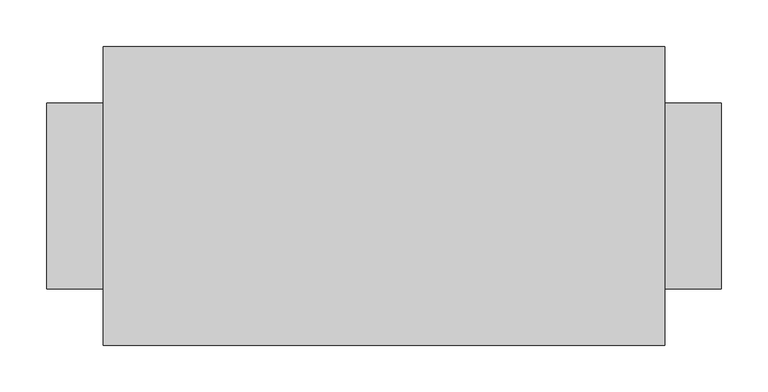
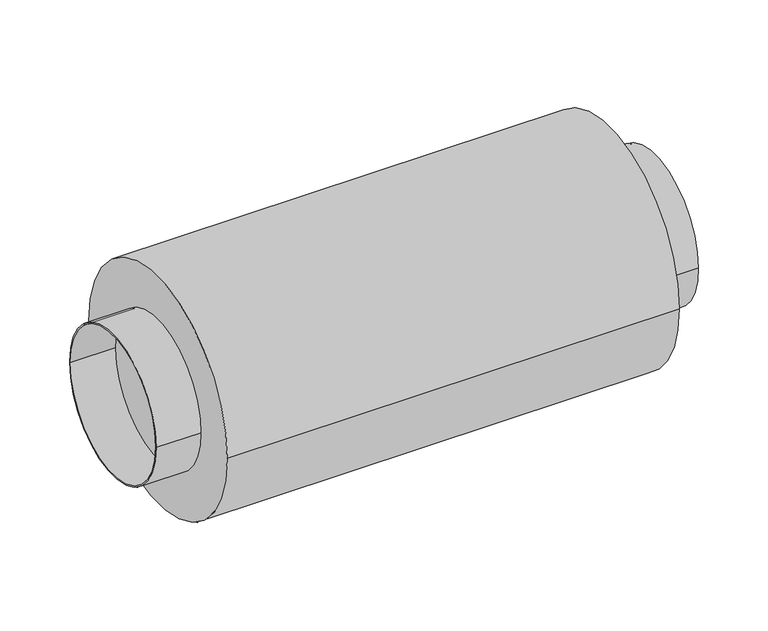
"""IFC4 building model written with IfcOpenShell, lengths in millimetres: damper geometry, СВ_Шумоглушитель_КанальныйКруглый_DN100-315_SHK : SHK-200/600."""

from ifc_helpers import new_model, si_unit, point, frame, origin, origin_2d, place, context, project, spatial, circle_curve, trimmed, segment, composite_curve, outline, extrude, source, transform, mapped, element, save


def damper_83553f87(model_context):
    return source(origin(), model_context, "Body", "SweptSolid", [
        extrude(outline(composite_curve([segment(trimmed(circle_curve(origin_2d(), 159.5), [point((-159.5, 0.0))], [point((159.5, 0.0))], False, "CARTESIAN"), True, "CONTINUOUS"), segment(trimmed(circle_curve(origin_2d(), 159.5), [point((159.5, 0.0))], [point((-159.5, 0.0))], False, "CARTESIAN"), True, "CONTINUOUS")], self_intersect=False)), frame((-300.0, 0.0, 0.0), z_axis=(1.0, 0.0, 0.0), x_axis=(0.0, 1.0, 0.0)), (0.0, 0.0, 1.0), 600.0),
        extrude(outline(composite_curve([segment(trimmed(circle_curve(origin_2d(), 99.5), [point((-99.5, 0.0))], [point((99.5, 0.0))], False, "CARTESIAN"), True, "CONTINUOUS"), segment(trimmed(circle_curve(origin_2d(), 99.5), [point((99.5, 0.0))], [point((-99.5, 0.0))], False, "CARTESIAN"), True, "CONTINUOUS")], self_intersect=False), holes=[composite_curve([segment(trimmed(circle_curve(origin_2d(), 97.5), [point((-97.5, 0.0))], [point((97.5, 0.0))], True, "CARTESIAN"), True, "CONTINUOUS"), segment(trimmed(circle_curve(origin_2d(), 97.5), [point((97.5, 0.0))], [point((-97.5, 0.0))], True, "CARTESIAN"), True, "CONTINUOUS")], self_intersect=False)]), frame((-360.0, 0.0, 0.0), z_axis=(1.0, 0.0, 0.0), x_axis=(0.0, 1.0, 0.0)), (0.0, 0.0, 1.0), 60.0),
        extrude(outline(composite_curve([segment(trimmed(circle_curve(origin_2d(), 99.5), [point((-99.5, 0.0))], [point((99.5, 0.0))], False, "CARTESIAN"), True, "CONTINUOUS"), segment(trimmed(circle_curve(origin_2d(), 99.5), [point((99.5, 0.0))], [point((-99.5, 0.0))], False, "CARTESIAN"), True, "CONTINUOUS")], self_intersect=False), holes=[composite_curve([segment(trimmed(circle_curve(origin_2d(), 97.5), [point((-97.5, 0.0))], [point((97.5, 0.0))], True, "CARTESIAN"), True, "CONTINUOUS"), segment(trimmed(circle_curve(origin_2d(), 97.5), [point((97.5, 0.0))], [point((-97.5, 0.0))], True, "CARTESIAN"), True, "CONTINUOUS")], self_intersect=False)]), frame((300.0, 0.0, 0.0), z_axis=(1.0, 0.0, 0.0), x_axis=(0.0, 1.0, 0.0)), (0.0, 0.0, 1.0), 60.0),
    ])


if __name__ == "__main__":
    model = new_model("IFC4")
    model_context = context("Model", 3, world=origin())
    ifc_project = project(units=[si_unit("LENGTHUNIT", "METRE", prefix="MILLI")], contexts=[model_context])
    site = spatial("IfcSite", under=ifc_project)
    building = spatial("IfcBuilding", under=site)
    placement = place(None, origin())
    damper_shape = damper_83553f87(model_context)
    element("IfcDamper", 1, ObjectType="СВ_Шумоглушитель_КанальныйКруглый_DN100-315_SHK : SHK-200/600", at=placement, inside=building, context=model_context, shape_type="MappedRepresentation", body=[
        mapped(damper_shape, transform((0.0, 0.0, 0.0), x_axis=(1.0, 0.0, 0.0), y_axis=(0.0, 1.0, 0.0), z_axis=(0.0, 0.0, 1.0))),
    ])
    save(model, "model.ifc")
